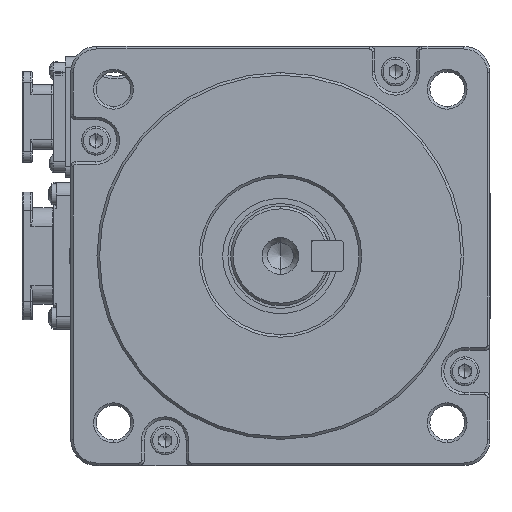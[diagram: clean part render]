
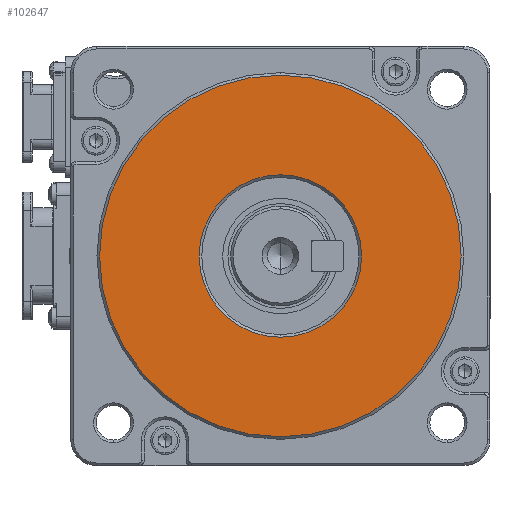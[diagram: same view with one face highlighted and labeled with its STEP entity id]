
A CAD part, left-side view. The second image highlights one B-rep face of the part: STEP entity #102647.
In plain terms, the highlighted planar face has unit normal (-1, 0, 0).
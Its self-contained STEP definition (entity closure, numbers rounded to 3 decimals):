
#1178 = CIRCLE ( 'NONE', #36851, 15.5 ) ;
#4113 = DIRECTION ( 'NONE',  ( 1., 0., 0. ) ) ;
#9647 = CARTESIAN_POINT ( 'NONE',  ( -58.489, 6.471, 168.346 ) ) ;
#9956 = CARTESIAN_POINT ( 'NONE',  ( -58.489, 6.471, 183.846 ) ) ;
#10598 = DIRECTION ( 'NONE',  ( 0., 1., 0. ) ) ;
#11365 = EDGE_CURVE ( 'NONE', #59461, #33567, #26301, .T. ) ;
#11446 = CARTESIAN_POINT ( 'NONE',  ( -58.489, 6.471, 183.846 ) ) ;
#17191 = ORIENTED_EDGE ( 'NONE', *, *, #62507, .T. ) ;
#17427 = ORIENTED_EDGE ( 'NONE', *, *, #30164, .T. ) ;
#24152 = EDGE_CURVE ( 'NONE', #33567, #59461, #74747, .T. ) ;
#26301 = CIRCLE ( 'NONE', #39282, 34.5 ) ;
#27473 = CARTESIAN_POINT ( 'NONE',  ( -58.489, 6.471, 183.846 ) ) ;
#28882 = CARTESIAN_POINT ( 'NONE',  ( -58.489, 6.471, 183.846 ) ) ;
#30164 = EDGE_CURVE ( 'NONE', #70109, #70491, #63458, .T. ) ;
#33567 = VERTEX_POINT ( 'NONE', #81600 ) ;
#34619 = DIRECTION ( 'NONE',  ( 1., 0., 0. ) ) ;
#36851 = AXIS2_PLACEMENT_3D ( 'NONE', #82514, #34619, #98227 ) ;
#39282 = AXIS2_PLACEMENT_3D ( 'NONE', #28882, #52035, #43979 ) ;
#40124 = AXIS2_PLACEMENT_3D ( 'NONE', #9956, #49612, #41899 ) ;
#41899 = DIRECTION ( 'NONE',  ( 0., 0., 1. ) ) ;
#43979 = DIRECTION ( 'NONE',  ( 0., 0., 1. ) ) ;
#49612 = DIRECTION ( 'NONE',  ( -1., 0., 0. ) ) ;
#50323 = EDGE_LOOP ( 'NONE', ( #88245, #68944 ) ) ;
#52035 = DIRECTION ( 'NONE',  ( -1., 0., 0. ) ) ;
#59118 = DIRECTION ( 'NONE',  ( 0., 0., 1. ) ) ;
#59461 = VERTEX_POINT ( 'NONE', #75181 ) ;
#59775 = CARTESIAN_POINT ( 'NONE',  ( -58.489, 6.471, 199.346 ) ) ;
#62507 = EDGE_CURVE ( 'NONE', #70491, #70109, #1178, .T. ) ;
#63458 = CIRCLE ( 'NONE', #98166, 15.5 ) ;
#68944 = ORIENTED_EDGE ( 'NONE', *, *, #11365, .T. ) ;
#69857 = AXIS2_PLACEMENT_3D ( 'NONE', #27473, #82412, #10598 ) ;
#70109 = VERTEX_POINT ( 'NONE', #59775 ) ;
#70491 = VERTEX_POINT ( 'NONE', #9647 ) ;
#74157 = FACE_BOUND ( 'NONE', #87563, .T. ) ;
#74747 = CIRCLE ( 'NONE', #40124, 34.5 ) ;
#75181 = CARTESIAN_POINT ( 'NONE',  ( -58.489, 6.471, 218.346 ) ) ;
#81600 = CARTESIAN_POINT ( 'NONE',  ( -58.489, 6.471, 149.346 ) ) ;
#82412 = DIRECTION ( 'NONE',  ( -1., 0., 0. ) ) ;
#82514 = CARTESIAN_POINT ( 'NONE',  ( -58.489, 6.471, 183.846 ) ) ;
#87563 = EDGE_LOOP ( 'NONE', ( #17427, #17191 ) ) ;
#88245 = ORIENTED_EDGE ( 'NONE', *, *, #24152, .T. ) ;
#90384 = FACE_OUTER_BOUND ( 'NONE', #50323, .T. ) ;
#98166 = AXIS2_PLACEMENT_3D ( 'NONE', #11446, #4113, #59118 ) ;
#98227 = DIRECTION ( 'NONE',  ( 0., 0., 1. ) ) ;
#98821 = PLANE ( 'NONE',  #69857 ) ;
#102647 = ADVANCED_FACE ( 'NONE', ( #90384, #74157 ), #98821, .T. ) ;
